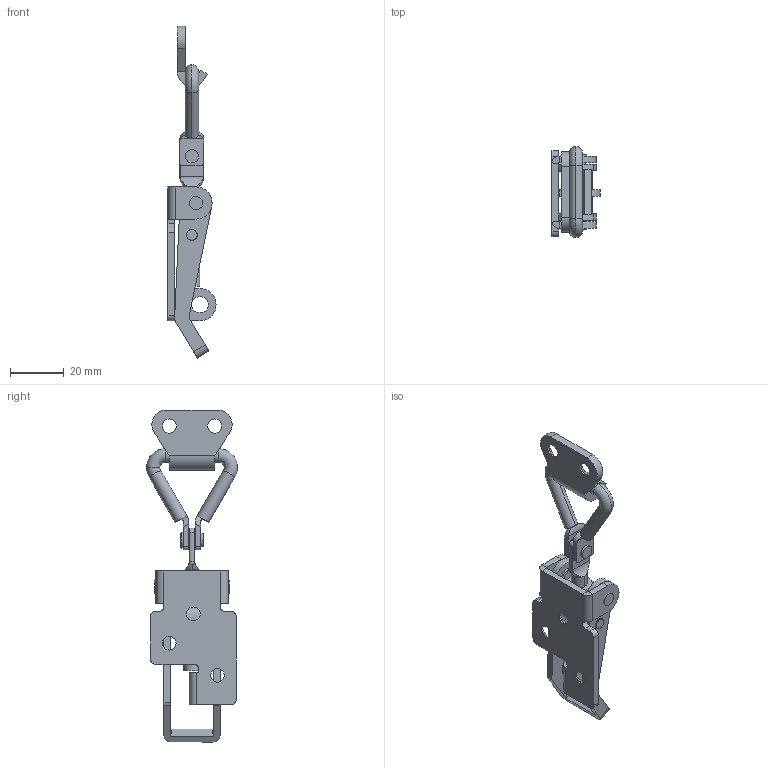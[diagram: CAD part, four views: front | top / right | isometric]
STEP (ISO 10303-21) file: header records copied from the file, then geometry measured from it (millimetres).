
FILE_DESCRIPTION (( 'STEP AP214' ), '1' );
FILE_NAME ('3.ST265.001.STEP', '2017-11-09T07:03:44', ( '' ), ( '' ), 'SwSTEP 2.0', 'SolidWorks 2015', '' );
FILE_SCHEMA (( 'AUTOMOTIVE_DESIGN' ));
Length unit declared in the file: millimetre
Products named in the file (12): 5.K61.001.20_A; 5.K61.001.07_B.1; 5.K61.001.05_A; 5.K61.001.06_A; 5.K61.001.10_A; 5.K61.001.03_A; 5.K61.001.07_A.1; 5.K61.001.02_A; 5.K61.001.01_A; 3.ST265.001; DIN 934_M6 - A4; 5.K61.001.04_A
Assembly tree (12 placements, depth 3):
  3.ST265.001
    5.K61.001.10_A
      5.K61.001.01_A
      5.K61.001.02_A
      5.K61.001.07_A.1  x2
      5.K61.001.03_A
    5.K61.001.20_A
      5.K61.001.06_A
      5.K61.001.05_A
      5.K61.001.07_B.1
    5.K61.001.04_A
    DIN 934_M6 - A4
Bounding box: 18 x 34 x 124.05 mm (x, y, z)
Volume: 13262.3 mm3; surface area: 13245.7 mm2
Topology: 10 solids, 10 shells, 263 faces, 636 edges, 402 vertices
Faces by surface type: cylinder 125, plane 102, cone 24, torus 8, bspline 4
Entity records: 8428 total; most frequent: CARTESIAN_POINT 1967, DIRECTION 1288, ORIENTED_EDGE 1216, EDGE_CURVE 608, AXIS2_PLACEMENT_3D 497, VERTEX_POINT 384, LINE 294, VECTOR 294
